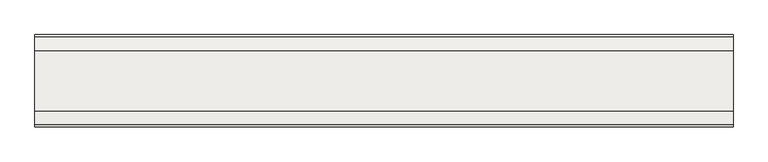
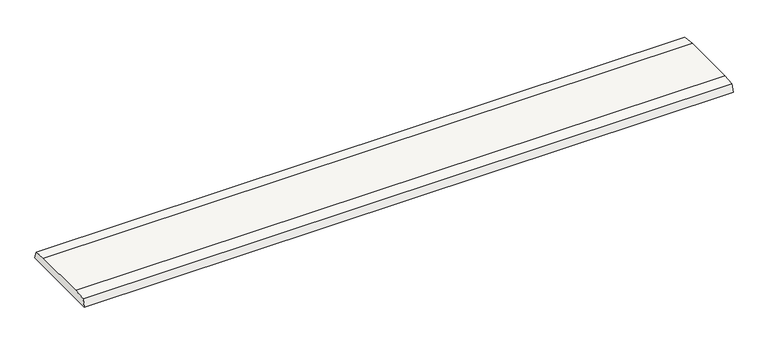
"""IFC4 building model written with IfcOpenShell, lengths in millimetres: slab geometry, ROSA GRES_245 CM_Colocación en plano : Rejilla 245 CM_Mistery_Grey_Anti-Slip."""

from ifc_helpers import new_model, si_unit, point, frame, frame_2d, origin, place, context, project, spatial, polyline, circle_curve, trimmed, segment, composite_curve, outline, extrude, source, transform, mapped, element, save


def slab_28db76ac(model_context):
    return source(origin(), model_context, "Body", "SweptSolid", [
        extrude(outline(composite_curve([segment(polyline([(242.0848264, -3.0209998), (248.9615625, -25.0413492), (0.0, -25.0413492), (6.8503894, -3.0704499)]), True, "CONTINUOUS"), segment(trimmed(circle_curve(frame_2d((86.2847076, -720.2412375)), 721.556477), [point((6.8503894, -3.0704499))], [point((42.7380732, 0.0))], False, "CARTESIAN"), True, "CONTINUOUS"), segment(polyline([(42.7380732, 0.0), (206.6448784, 0.0)]), True, "CONTINUOUS"), segment(trimmed(circle_curve(frame_2d((163.0982439, -720.2412375)), 721.556477), [point((206.6448784, 0.0))], [point((242.0848264, -3.0209998))], False, "CARTESIAN"), True, "CONTINUOUS")], self_intersect=False)), frame((0.0, 0.0, 0.0), z_axis=(1.0, 0.0, 0.0), x_axis=(0.0, 1.0, 0.0)), (0.0, 0.0, 1.0), 1883.5997678),
    ])


if __name__ == "__main__":
    model = new_model("IFC4")
    model_context = context("Model", 3, world=origin())
    ifc_project = project(units=[si_unit("LENGTHUNIT", "METRE", prefix="MILLI")], contexts=[model_context])
    site = spatial("IfcSite", under=ifc_project)
    building = spatial("IfcBuilding", under=site)
    placement = place(None, origin())
    slab_shape = slab_28db76ac(model_context)
    element("IfcSlab", 1, ObjectType="ROSA GRES_245 CM_Colocación en plano : Rejilla 245 CM_Mistery_Grey_Anti-Slip", at=placement, inside=building, context=model_context, shape_type="MappedRepresentation", body=[
        mapped(slab_shape, transform((0.0, 0.0, 0.0), x_axis=(1.0, 0.0, 0.0), y_axis=(0.0, 1.0, 0.0), z_axis=(0.0, 0.0, 1.0))),
    ])
    save(model, "model.ifc")
